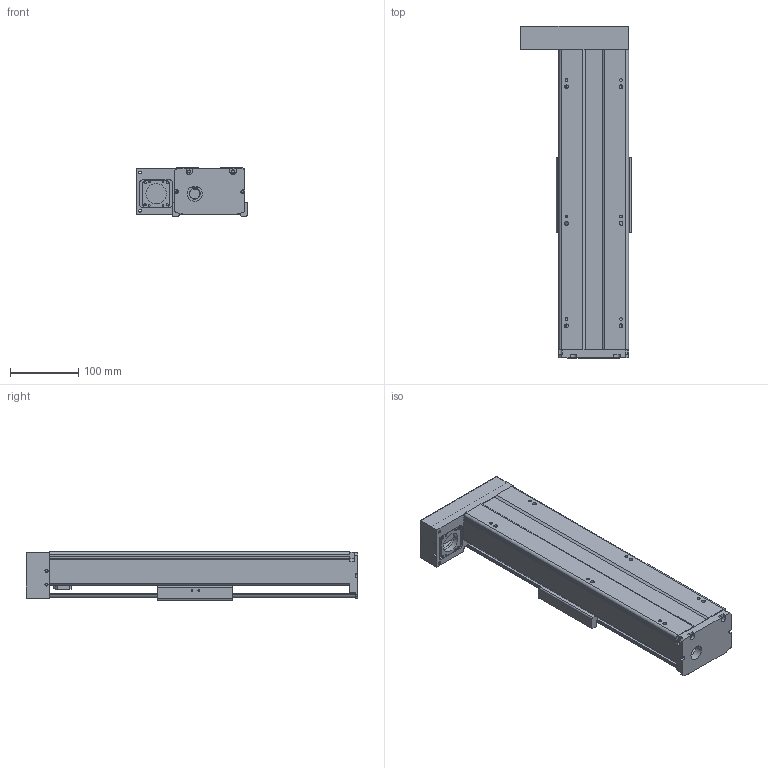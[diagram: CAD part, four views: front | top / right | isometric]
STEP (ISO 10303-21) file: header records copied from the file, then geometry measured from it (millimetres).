
FILE_DESCRIPTION(/* description */ (''),/* implementation_level */ '2;1');
FILE_NAME(/* name */ 'TKA100-FL-250_asm1.stp',/* time_stamp */ '2016-05-17T14:44:12+08:00',/* author */ (''),/* organization */ (''),/* preprocessor_version */ 'ST-DEVELOPER v15',/* originating_system */ 'SIEMENS PLM Software NX 8.5',/* authorisation */ '');
FILE_SCHEMA (('AUTOMOTIVE_DESIGN { 1 0 10303 214 3 1 1 1 }'));
Length unit declared in the file: millimetre
Products named in the file (3): 200-1; 200-2; TKA100-FL-250_asm1
Assembly tree (2 placements, depth 2):
  TKA100-FL-250_asm1
    200-2
    200-1
Bounding box: 162 x 486 x 71 mm (x, y, z)
Volume: 1230672.6 mm3; surface area: 421685.2 mm2
Topology: 2 solids, 16 shells, 776 faces, 2010 edges, 1306 vertices
Faces by surface type: plane 315, cylinder 290, cone 117, torus 28, bspline 26
Full cylindrical faces by diameter (mm): 2.5 x6, 2.6 x8, 3.3 x11, 3.4 x4, 3.8 x8, 4.2 x15, 4.3 x4, 4.5 x10, 5 x2, 5.5 x14, 6.6 x4, 8 x4, 9 x6, 10 x4, 11 x4, 12 x6, 15.3 x1, 16 x1, 22 x1, 24 x1, 28 x2, 30 x1, 33 x1
Entity records: 28634 total; most frequent: CARTESIAN_POINT 10552, DIRECTION 3701, ORIENTED_EDGE 3536, EDGE_CURVE 1768, AXIS2_PLACEMENT_3D 1451, VERTEX_POINT 1244, EDGE_LOOP 1057, LINE 799
